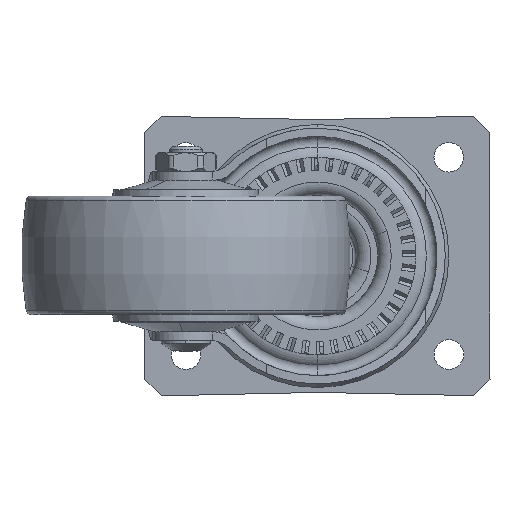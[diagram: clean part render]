
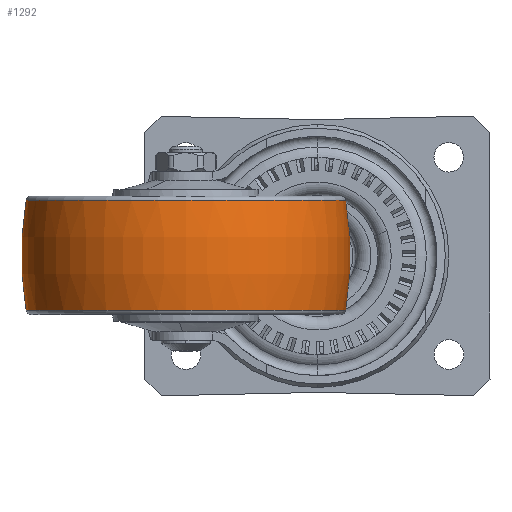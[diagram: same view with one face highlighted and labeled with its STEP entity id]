
A CAD part, front view. The second image highlights one B-rep face of the part: STEP entity #1292.
In plain terms, the highlighted toroidal (fillet/blend) face has major radius 50 mm and minor radius 100 mm.
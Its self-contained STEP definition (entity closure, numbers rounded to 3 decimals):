
#1242 = ORIENTED_EDGE ( 'NONE', *, *, #5934, .F. ) ;
#1244 = ORIENTED_EDGE ( 'NONE', *, *, #1249, .T. ) ;
#1245 = EDGE_LOOP ( 'NONE', ( #1242, #1244, #1293, #1296 ) ) ;
#1249 = EDGE_CURVE ( 'NONE', #5938, #5936, #8920, .T. ) ;
#1292 = ADVANCED_FACE ( 'NONE', ( #8925 ), #8980, .T. ) ;
#1293 = ORIENTED_EDGE ( 'NONE', *, *, #5935, .T. ) ;
#1295 = EDGE_CURVE ( 'NONE', #5897, #5903, #8967, .T. ) ;
#1296 = ORIENTED_EDGE ( 'NONE', *, *, #1295, .F. ) ;
#3576 = CARTESIAN_POINT ( 'NONE',  ( -84.328, -23.32, -20.559 ) ) ;
#3580 = CARTESIAN_POINT ( 'NONE',  ( 12.846, -23.32, -20.559 ) ) ;
#3612 = DIRECTION ( 'NONE',  ( 0., 0., -1. ) ) ;
#3613 = DIRECTION ( 'NONE',  ( 0., -1., 0. ) ) ;
#3614 = AXIS2_PLACEMENT_3D ( 'NONE', #3628, #3613, #3612 ) ;
#3618 = DIRECTION ( 'NONE',  ( -1., 0., 0. ) ) ;
#3619 = DIRECTION ( 'NONE',  ( 0., 1., 0. ) ) ;
#3620 = CARTESIAN_POINT ( 'NONE',  ( -85.741, -23.32, -3.808 ) ) ;
#3621 = AXIS2_PLACEMENT_3D ( 'NONE', #3620, #3619, #3618 ) ;
#3622 = CIRCLE ( 'NONE', #3621, 100. ) ;
#3627 = CIRCLE ( 'NONE', #3614, 100. ) ;
#3628 = CARTESIAN_POINT ( 'NONE',  ( 14.259, -23.32, -3.808 ) ) ;
#3629 = CARTESIAN_POINT ( 'NONE',  ( -84.328, -23.32, 12.944 ) ) ;
#3643 = CARTESIAN_POINT ( 'NONE',  ( 12.846, -23.32, 12.944 ) ) ;
#5897 = VERTEX_POINT ( 'NONE', #3580 ) ;
#5903 = VERTEX_POINT ( 'NONE', #3576 ) ;
#5934 = EDGE_CURVE ( 'NONE', #5938, #5897, #3622, .T. ) ;
#5935 = EDGE_CURVE ( 'NONE', #5936, #5903, #3627, .T. ) ;
#5936 = VERTEX_POINT ( 'NONE', #3629 ) ;
#5938 = VERTEX_POINT ( 'NONE', #3643 ) ;
#8895 = DIRECTION ( 'NONE',  ( -1., 0., 0. ) ) ;
#8896 = DIRECTION ( 'NONE',  ( 0., 0., -1. ) ) ;
#8897 = CARTESIAN_POINT ( 'NONE',  ( -35.741, -23.32, 12.944 ) ) ;
#8911 = AXIS2_PLACEMENT_3D ( 'NONE', #8897, #8896, #8895 ) ;
#8920 = CIRCLE ( 'NONE', #8911, 48.587 ) ;
#8925 = FACE_OUTER_BOUND ( 'NONE', #1245, .T. ) ;
#8946 = AXIS2_PLACEMENT_3D ( 'NONE', #8969, #8968, #8966 ) ;
#8961 = DIRECTION ( 'NONE',  ( -1., 0., 0. ) ) ;
#8962 = DIRECTION ( 'NONE',  ( 0., 0., -1. ) ) ;
#8963 = CARTESIAN_POINT ( 'NONE',  ( -35.741, -23.32, -20.559 ) ) ;
#8965 = AXIS2_PLACEMENT_3D ( 'NONE', #8963, #8962, #8961 ) ;
#8966 = DIRECTION ( 'NONE',  ( -1., 0., 0. ) ) ;
#8967 = CIRCLE ( 'NONE', #8965, 48.587 ) ;
#8968 = DIRECTION ( 'NONE',  ( 0., 0., -1. ) ) ;
#8969 = CARTESIAN_POINT ( 'NONE',  ( -35.741, -23.32, -3.808 ) ) ;
#8980 = TOROIDAL_SURFACE ( 'NONE', #8946, -50., 100. ) ;
